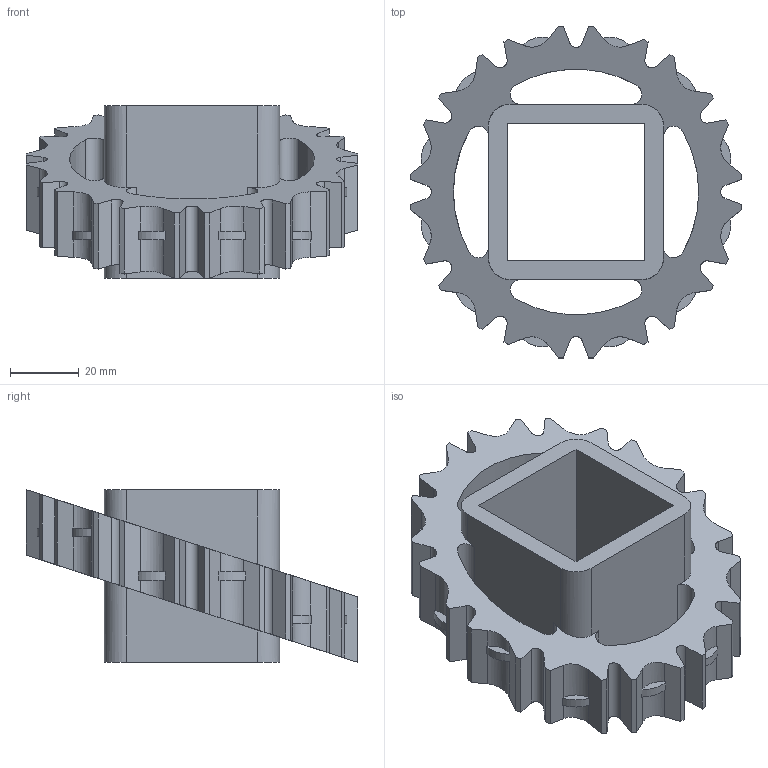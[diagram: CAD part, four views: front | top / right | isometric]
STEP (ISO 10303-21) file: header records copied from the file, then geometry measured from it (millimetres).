
FILE_DESCRIPTION((''),'2;1');
FILE_NAME('S1600_ANGLEEZCLEAN_39X15_40_SQ','2008-12-12T',('jmumphre'),(''),'PRO/ENGINEER BY PARAMETRIC TECHNOLOGY CORPORATION, 2008150','PRO/ENGINEER BY PARAMETRIC TECHNOLOGY CORPORATION, 2008150','');
FILE_SCHEMA(('CONFIG_CONTROL_DESIGN'));
Length unit declared in the file: inch
Products named in the file (1): S1600_ANGLEEZCLEAN_39X15_40_SQ
Bounding box: 96.62 x 96.62 x 50.29 mm (x, y, z)
Volume: 99735.6 mm3; surface area: 36581.3 mm2
Topology: 1 solids, 1 shells, 176 faces, 540 edges, 360 vertices
Faces by surface type: plane 108, cylinder 68
Entity records: 6958 total; most frequent: CARTESIAN_POINT 2174, ORIENTED_EDGE 1080, DIRECTION 868, EDGE_CURVE 540, VECTOR 404, LINE 404, VERTEX_POINT 360, AXIS2_PLACEMENT_3D 232
